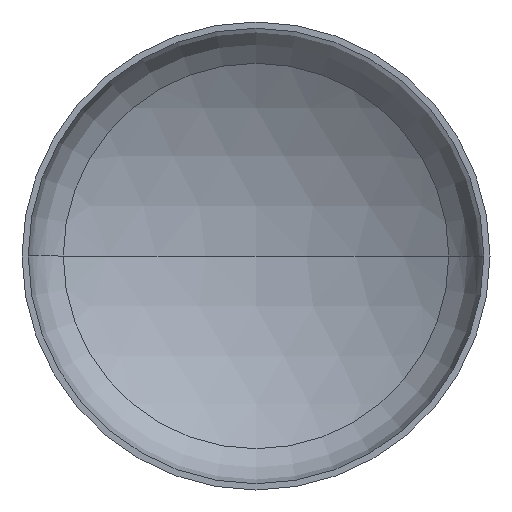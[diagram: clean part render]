
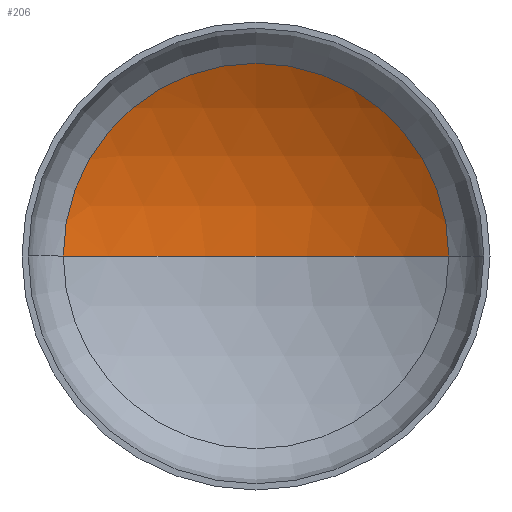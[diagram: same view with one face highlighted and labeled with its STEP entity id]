
A CAD part, front view. The second image highlights one B-rep face of the part: STEP entity #206.
In plain terms, the highlighted spherical face has radius 960 mm.
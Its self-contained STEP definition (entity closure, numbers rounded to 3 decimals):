
#2 = DIRECTION ( 'NONE',  ( 1., 0., 0. ) ) ;
#5 = DIRECTION ( 'NONE',  ( -1., 0., 0. ) ) ;
#10 = DIRECTION ( 'NONE',  ( 0., 0., -1. ) ) ;
#13 = CARTESIAN_POINT ( 'NONE',  ( 0., -609.397, 0. ) ) ;
#14 = AXIS2_PLACEMENT_3D ( 'NONE', #223, #164, #387 ) ;
#19 = ORIENTED_EDGE ( 'NONE', *, *, #83, .T. ) ;
#26 = AXIS2_PLACEMENT_3D ( 'NONE', #315, #119, #159 ) ;
#27 = AXIS2_PLACEMENT_3D ( 'NONE', #13, #10, #5 ) ;
#28 = AXIS2_PLACEMENT_3D ( 'NONE', #247, #410, #2 ) ;
#33 = EDGE_LOOP ( 'NONE', ( #118, #48, #19 ) ) ;
#48 = ORIENTED_EDGE ( 'NONE', *, *, #86, .T. ) ;
#57 = VERTEX_POINT ( 'NONE', #344 ) ;
#70 = VERTEX_POINT ( 'NONE', #233 ) ;
#83 = EDGE_CURVE ( 'NONE', #70, #116, #277, .T. ) ;
#86 = EDGE_CURVE ( 'NONE', #57, #70, #352, .T. ) ;
#87 = EDGE_CURVE ( 'NONE', #57, #116, #222, .T. ) ;
#116 = VERTEX_POINT ( 'NONE', #366 ) ;
#118 = ORIENTED_EDGE ( 'NONE', *, *, #87, .F. ) ;
#119 = DIRECTION ( 'NONE',  ( 0., 0., 1. ) ) ;
#121 = FACE_OUTER_BOUND ( 'NONE', #33, .T. ) ;
#159 = DIRECTION ( 'NONE',  ( 1., 0., 0. ) ) ;
#164 = DIRECTION ( 'NONE',  ( 0., 0., -1. ) ) ;
#206 = ADVANCED_FACE ( 'NONE', ( #121 ), #402, .F. ) ;
#222 = CIRCLE ( 'NONE', #26, 960. ) ;
#223 = CARTESIAN_POINT ( 'NONE',  ( 0., -609.397, 0. ) ) ;
#233 = CARTESIAN_POINT ( 'NONE',  ( 494.245, 213.598, 0. ) ) ;
#247 = CARTESIAN_POINT ( 'NONE',  ( 0., 213.598, 0. ) ) ;
#277 = CIRCLE ( 'NONE', #28, 494.245 ) ;
#315 = CARTESIAN_POINT ( 'NONE',  ( 0., -609.397, 0. ) ) ;
#344 = CARTESIAN_POINT ( 'NONE',  ( 0., 350.603, 0. ) ) ;
#352 = CIRCLE ( 'NONE', #27, 960. ) ;
#366 = CARTESIAN_POINT ( 'NONE',  ( -494.245, 213.598, 0. ) ) ;
#387 = DIRECTION ( 'NONE',  ( -1., 0., 0. ) ) ;
#402 = SPHERICAL_SURFACE ( 'NONE', #14, 960. ) ;
#410 = DIRECTION ( 'NONE',  ( 0., -1., 0. ) ) ;
